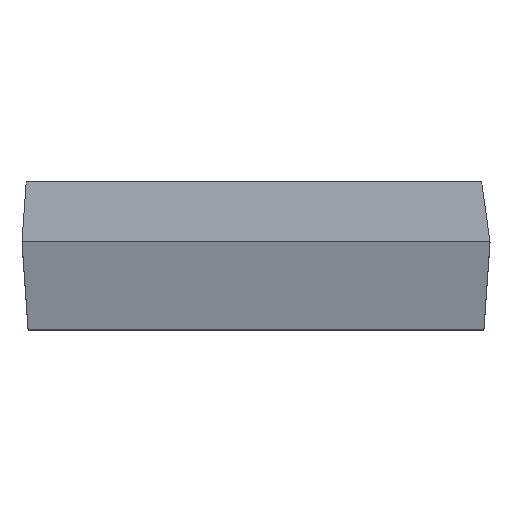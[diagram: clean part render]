
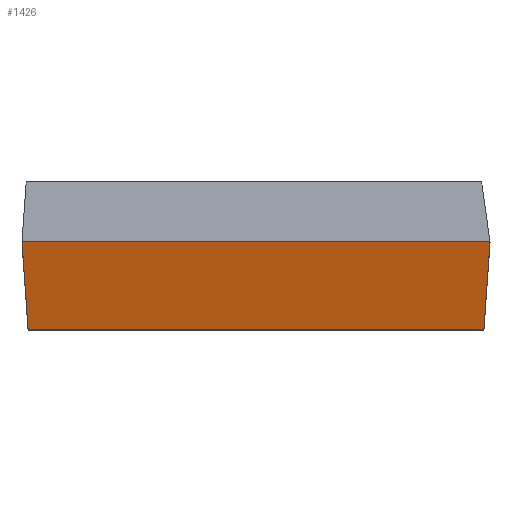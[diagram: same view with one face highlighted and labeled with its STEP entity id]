
A CAD part, top view. The second image highlights one B-rep face of the part: STEP entity #1426.
In plain terms, the highlighted planar face has unit normal (0, -0.259, 0.966).
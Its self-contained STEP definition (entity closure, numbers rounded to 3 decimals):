
#265=ORIENTED_EDGE('',*,*,#563,.F.);
#266=ORIENTED_EDGE('',*,*,#564,.T.);
#267=ORIENTED_EDGE('',*,*,#516,.F.);
#268=ORIENTED_EDGE('',*,*,#565,.T.);
#516=EDGE_CURVE('',#683,#684,#840,.T.);
#563=EDGE_CURVE('',#726,#727,#887,.T.);
#564=EDGE_CURVE('',#726,#684,#888,.T.);
#565=EDGE_CURVE('',#683,#727,#889,.T.);
#683=VERTEX_POINT('',#2439);
#684=VERTEX_POINT('',#2441);
#726=VERTEX_POINT('',#2539);
#727=VERTEX_POINT('',#2540);
#840=LINE('',#2440,#1033);
#887=LINE('',#2538,#1080);
#888=LINE('',#2541,#1081);
#889=LINE('',#2542,#1082);
#1033=VECTOR('',#2054,1000.);
#1080=VECTOR('',#2119,1000.);
#1081=VECTOR('',#2120,1000.);
#1082=VECTOR('',#2121,1000.);
#1183=EDGE_LOOP('',(#265,#266,#267,#268));
#1268=FACE_BOUND('',#1183,.T.);
#1348=PLANE('',#1843);
#1426=ADVANCED_FACE('',(#1268),#1348,.F.);
#1843=AXIS2_PLACEMENT_3D('',#2537,#2117,#2118);
#2054=DIRECTION('',(-1.,0.,0.));
#2117=DIRECTION('',(0.,0.259,-0.966));
#2118=DIRECTION('',(-1.,0.,0.));
#2119=DIRECTION('',(1.,0.,0.));
#2120=DIRECTION('',(0.067,-0.964,-0.258));
#2121=DIRECTION('',(0.067,0.964,0.258));
#2439=CARTESIAN_POINT('',(7.762,0.,20.169));
#2440=CARTESIAN_POINT('',(0.,0.,20.169));
#2441=CARTESIAN_POINT('',(-7.762,0.,20.169));
#2537=CARTESIAN_POINT('',(0.,0.,20.169));
#2538=CARTESIAN_POINT('',(-7.97,2.98,20.968));
#2539=CARTESIAN_POINT('',(-7.97,2.98,20.968));
#2540=CARTESIAN_POINT('',(7.97,2.98,20.968));
#2541=CARTESIAN_POINT('',(-7.726,-0.504,20.034));
#2542=CARTESIAN_POINT('',(7.726,-0.504,20.034));
